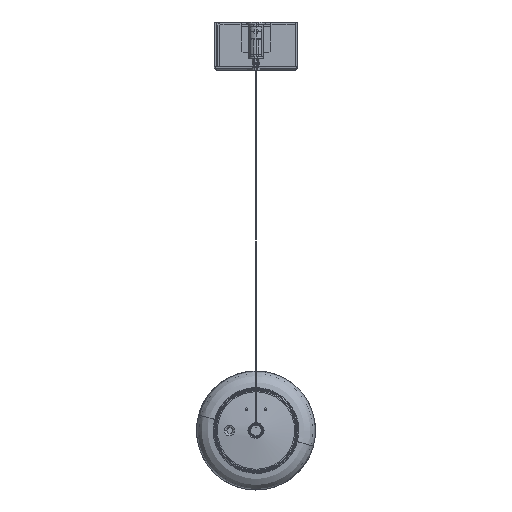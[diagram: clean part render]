
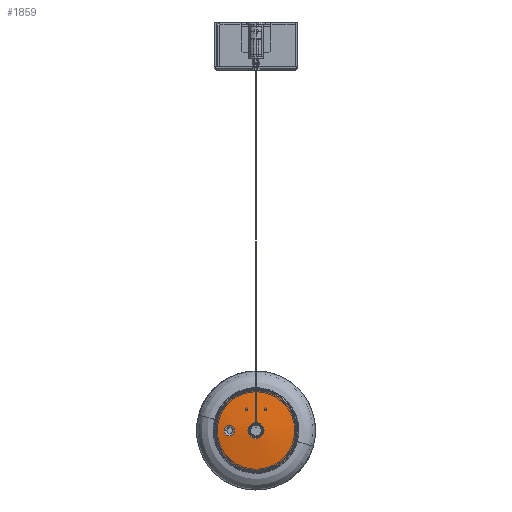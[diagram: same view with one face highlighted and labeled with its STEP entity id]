
A CAD part, left-side view. The second image highlights one B-rep face of the part: STEP entity #1859.
In plain terms, the highlighted free-form (B-spline) face has degree [2, 2] with [9, 5] control points.
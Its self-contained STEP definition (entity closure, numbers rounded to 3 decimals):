
#613=(
BOUNDED_SURFACE()
B_SPLINE_SURFACE(2,2,((#40077,#40078,#40079,#40080,#40081),(#40082,#40083,
#40084,#40085,#40086),(#40087,#40088,#40089,#40090,#40091),(#40092,#40093,
#40094,#40095,#40096),(#40097,#40098,#40099,#40100,#40101),(#40102,#40103,
#40104,#40105,#40106),(#40107,#40108,#40109,#40110,#40111),(#40112,#40113,
#40114,#40115,#40116),(#40117,#40118,#40119,#40120,#40121)),
 .UNSPECIFIED.,.T.,.F.,.F.)
B_SPLINE_SURFACE_WITH_KNOTS((3,2,2,2,3),(3,2,3),(0.,265.296,530.593,
795.889,1061.185),(0.,265.296,530.593),
 .UNSPECIFIED.)
GEOMETRIC_REPRESENTATION_ITEM()
RATIONAL_B_SPLINE_SURFACE(((1.,0.707,1.,0.707,1.),
(0.707,0.5,0.707,0.5,0.707),(1.,0.707,
1.,0.707,1.),(0.707,0.5,0.707,0.5,0.707),
(1.,0.707,1.,0.707,1.),(0.707,0.5,0.707,
0.5,0.707),(1.,0.707,1.,0.707,1.),(0.707,
0.5,0.707,0.5,0.707),(1.,0.707,1.,0.707,
1.)))
REPRESENTATION_ITEM('')
SURFACE()
);
#906=FACE_BOUND('',#4396,.T.);
#907=FACE_BOUND('',#4397,.T.);
#1859=ADVANCED_FACE('',(#3037,#906,#907),#613,.T.);
#3037=FACE_OUTER_BOUND('',#4395,.T.);
#4395=EDGE_LOOP('',(#9029,#9030));
#4396=EDGE_LOOP('',(#9031,#9032));
#4397=EDGE_LOOP('',(#9033,#9034));
#9029=ORIENTED_EDGE('',*,*,#12524,.F.);
#9030=ORIENTED_EDGE('',*,*,#12526,.F.);
#9031=ORIENTED_EDGE('',*,*,#12487,.T.);
#9032=ORIENTED_EDGE('',*,*,#12485,.T.);
#9033=ORIENTED_EDGE('',*,*,#12478,.T.);
#9034=ORIENTED_EDGE('',*,*,#12534,.T.);
#12478=EDGE_CURVE('',#17360,#17395,#15579,.T.);
#12485=EDGE_CURVE('',#17365,#17362,#14468,.T.);
#12487=EDGE_CURVE('',#17362,#17365,#14469,.T.);
#12524=EDGE_CURVE('',#17392,#17361,#14497,.T.);
#12526=EDGE_CURVE('',#17361,#17392,#14499,.T.);
#12534=EDGE_CURVE('',#17395,#17360,#15597,.T.);
#14468=(
BOUNDED_CURVE()
B_SPLINE_CURVE(2,(#40598,#40599,#40600,#40601,#40602),.UNSPECIFIED.,.F.,
 .F.)
B_SPLINE_CURVE_WITH_KNOTS((3,2,3),(-42.409,-31.807,-21.205),
 .UNSPECIFIED.)
CURVE()
GEOMETRIC_REPRESENTATION_ITEM()
RATIONAL_B_SPLINE_CURVE((1.,0.707,1.,0.707,1.))
REPRESENTATION_ITEM('')
);
#14469=(
BOUNDED_CURVE()
B_SPLINE_CURVE(2,(#40605,#40606,#40607,#40608,#40609),.UNSPECIFIED.,.F.,
 .F.)
B_SPLINE_CURVE_WITH_KNOTS((3,2,3),(-21.205,-10.602,
0.),.UNSPECIFIED.)
CURVE()
GEOMETRIC_REPRESENTATION_ITEM()
RATIONAL_B_SPLINE_CURVE((1.,0.707,1.,0.707,1.))
REPRESENTATION_ITEM('')
);
#14497=(
BOUNDED_CURVE()
B_SPLINE_CURVE(2,(#40741,#40742,#40743,#40744,#40745),.UNSPECIFIED.,.F.,
 .F.)
B_SPLINE_CURVE_WITH_KNOTS((3,2,3),(0.,54.047,108.094),
 .UNSPECIFIED.)
CURVE()
GEOMETRIC_REPRESENTATION_ITEM()
RATIONAL_B_SPLINE_CURVE((1.,0.707,1.,0.707,1.))
REPRESENTATION_ITEM('')
);
#14499=(
BOUNDED_CURVE()
B_SPLINE_CURVE(2,(#40749,#40750,#40751,#40752,#40753),.UNSPECIFIED.,.F.,
 .F.)
B_SPLINE_CURVE_WITH_KNOTS((3,2,3),(108.094,162.141,216.188),
 .UNSPECIFIED.)
CURVE()
GEOMETRIC_REPRESENTATION_ITEM()
RATIONAL_B_SPLINE_CURVE((1.,0.707,1.,0.707,1.))
REPRESENTATION_ITEM('')
);
#15579=B_SPLINE_CURVE_WITH_KNOTS('',3,(#40561,#40562,#40563,#40564,#40565,
#40566,#40567,#40568),.UNSPECIFIED.,.F.,.F.,(4,1,1,1,1,4),(-30.98,
-28.767,-26.554,-22.129,-17.703,
-13.277),.UNSPECIFIED.);
#15597=B_SPLINE_CURVE_WITH_KNOTS('',3,(#40779,#40780,#40781,#40782,#40783,
#40784,#40785),.UNSPECIFIED.,.F.,.F.,(4,1,1,1,4),(-13.277,-8.851,
-4.426,-2.213,0.),.UNSPECIFIED.);
#17360=VERTEX_POINT('',#40489);
#17361=VERTEX_POINT('',#40490);
#17362=VERTEX_POINT('',#40491);
#17365=VERTEX_POINT('',#40494);
#17392=VERTEX_POINT('',#40521);
#17395=VERTEX_POINT('',#40524);
#40077=CARTESIAN_POINT('',(-184.107,0.,-512.393));
#40078=CARTESIAN_POINT('',(-15.214,0.164,-512.393));
#40079=CARTESIAN_POINT('',(-15.214,0.164,-343.5));
#40080=CARTESIAN_POINT('',(-15.214,0.164,-174.607));
#40081=CARTESIAN_POINT('',(-184.107,0.,-174.607));
#40082=CARTESIAN_POINT('',(-184.107,0.,-512.393));
#40083=CARTESIAN_POINT('',(-15.378,169.057,-512.393));
#40084=CARTESIAN_POINT('',(-15.378,169.057,-343.5));
#40085=CARTESIAN_POINT('',(-15.378,169.057,-174.607));
#40086=CARTESIAN_POINT('',(-184.107,0.,-174.607));
#40087=CARTESIAN_POINT('',(-184.107,0.,-512.393));
#40088=CARTESIAN_POINT('',(-184.271,168.893,-512.393));
#40089=CARTESIAN_POINT('',(-184.271,168.893,-343.5));
#40090=CARTESIAN_POINT('',(-184.271,168.893,-174.607));
#40091=CARTESIAN_POINT('',(-184.107,0.,-174.607));
#40092=CARTESIAN_POINT('',(-184.107,0.,-512.393));
#40093=CARTESIAN_POINT('',(-353.164,168.729,-512.393));
#40094=CARTESIAN_POINT('',(-353.164,168.729,-343.5));
#40095=CARTESIAN_POINT('',(-353.164,168.729,-174.607));
#40096=CARTESIAN_POINT('',(-184.107,0.,-174.607));
#40097=CARTESIAN_POINT('',(-184.107,0.,-512.393));
#40098=CARTESIAN_POINT('',(-353.,-0.164,-512.393));
#40099=CARTESIAN_POINT('',(-353.,-0.164,-343.5));
#40100=CARTESIAN_POINT('',(-353.,-0.164,-174.607));
#40101=CARTESIAN_POINT('',(-184.107,0.,-174.607));
#40102=CARTESIAN_POINT('',(-184.107,0.,-512.393));
#40103=CARTESIAN_POINT('',(-352.836,-169.057,-512.393));
#40104=CARTESIAN_POINT('',(-352.836,-169.057,-343.5));
#40105=CARTESIAN_POINT('',(-352.836,-169.057,-174.607));
#40106=CARTESIAN_POINT('',(-184.107,0.,-174.607));
#40107=CARTESIAN_POINT('',(-184.107,0.,-512.393));
#40108=CARTESIAN_POINT('',(-183.943,-168.893,-512.393));
#40109=CARTESIAN_POINT('',(-183.943,-168.893,-343.5));
#40110=CARTESIAN_POINT('',(-183.943,-168.893,-174.607));
#40111=CARTESIAN_POINT('',(-184.107,0.,-174.607));
#40112=CARTESIAN_POINT('',(-184.107,0.,-512.393));
#40113=CARTESIAN_POINT('',(-15.05,-168.729,-512.393));
#40114=CARTESIAN_POINT('',(-15.05,-168.729,-343.5));
#40115=CARTESIAN_POINT('',(-15.05,-168.729,-174.607));
#40116=CARTESIAN_POINT('',(-184.107,0.,-174.607));
#40117=CARTESIAN_POINT('',(-184.107,0.,-512.393));
#40118=CARTESIAN_POINT('',(-15.214,0.164,-512.393));
#40119=CARTESIAN_POINT('',(-15.214,0.164,-343.5));
#40120=CARTESIAN_POINT('',(-15.214,0.164,-174.607));
#40121=CARTESIAN_POINT('',(-184.107,0.,-174.607));
#40489=CARTESIAN_POINT('',(-350.857,26.818,-343.5));
#40490=CARTESIAN_POINT('',(-349.458,0.,-309.093));
#40491=CARTESIAN_POINT('',(-352.865,-6.75,-343.5));
#40494=CARTESIAN_POINT('',(-352.865,6.75,-343.5));
#40521=CARTESIAN_POINT('',(-349.458,0.,-377.907));
#40524=CARTESIAN_POINT('',(-352.009,18.16,-345.484));
#40561=CARTESIAN_POINT('',(-350.857,26.818,-343.5));
#40562=CARTESIAN_POINT('',(-350.857,26.818,-342.816));
#40563=CARTESIAN_POINT('',(-350.9,26.501,-341.453));
#40564=CARTESIAN_POINT('',(-351.132,24.758,-339.256));
#40565=CARTESIAN_POINT('',(-351.617,21.12,-338.42));
#40566=CARTESIAN_POINT('',(-352.088,17.564,-341.221));
#40567=CARTESIAN_POINT('',(-352.088,17.568,-344.258));
#40568=CARTESIAN_POINT('',(-352.009,18.16,-345.484));
#40598=CARTESIAN_POINT('',(-352.865,6.75,-343.5));
#40599=CARTESIAN_POINT('',(-352.865,6.75,-336.75));
#40600=CARTESIAN_POINT('',(-352.865,0.,-336.75));
#40601=CARTESIAN_POINT('',(-352.865,-6.75,-336.75));
#40602=CARTESIAN_POINT('',(-352.865,-6.75,-343.5));
#40605=CARTESIAN_POINT('',(-352.865,-6.75,-343.5));
#40606=CARTESIAN_POINT('',(-352.865,-6.75,-350.25));
#40607=CARTESIAN_POINT('',(-352.865,0.,-350.25));
#40608=CARTESIAN_POINT('',(-352.865,6.75,-350.25));
#40609=CARTESIAN_POINT('',(-352.865,6.75,-343.5));
#40741=CARTESIAN_POINT('',(-349.458,0.,-377.907));
#40742=CARTESIAN_POINT('',(-349.458,34.407,-377.907));
#40743=CARTESIAN_POINT('',(-349.458,34.407,-343.5));
#40744=CARTESIAN_POINT('',(-349.458,34.407,-309.093));
#40745=CARTESIAN_POINT('',(-349.458,0.,-309.093));
#40749=CARTESIAN_POINT('',(-349.458,0.,-309.093));
#40750=CARTESIAN_POINT('',(-349.458,-34.407,-309.093));
#40751=CARTESIAN_POINT('',(-349.458,-34.407,-343.5));
#40752=CARTESIAN_POINT('',(-349.458,-34.407,-377.907));
#40753=CARTESIAN_POINT('',(-349.458,0.,-377.907));
#40779=CARTESIAN_POINT('',(-352.009,18.16,-345.484));
#40780=CARTESIAN_POINT('',(-351.931,18.753,-346.711));
#40781=CARTESIAN_POINT('',(-351.617,21.118,-348.58));
#40782=CARTESIAN_POINT('',(-351.132,24.758,-347.745));
#40783=CARTESIAN_POINT('',(-350.9,26.501,-345.548));
#40784=CARTESIAN_POINT('',(-350.857,26.818,-344.184));
#40785=CARTESIAN_POINT('',(-350.857,26.818,-343.5));
